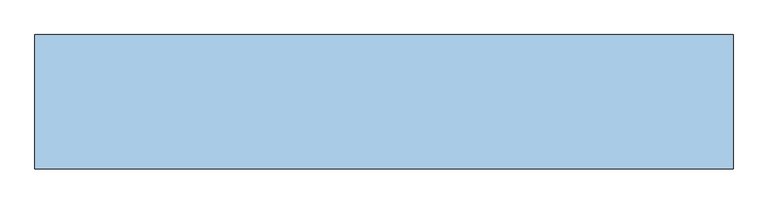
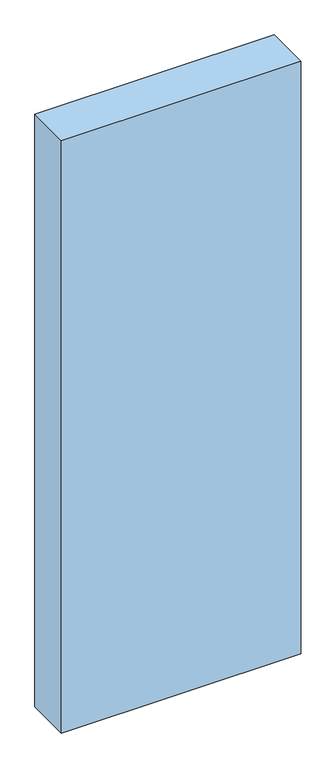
"""IFC4 building model written with IfcOpenShell, lengths in millimetres: window geometry, Dr_Проем-Четверти_об модель : ОК."""

from ifc_helpers import new_model, si_unit, origin, origin_with_axes, place, context, project, spatial, polyline, outline, extrude, source, transform, mapped, element, save


def window_82ae1421(model_context):
    return source(origin(), model_context, "Body", "SweptSolid", [
        extrude(outline(polyline([(655.0, 100.0), (655.0, -100.0), (-385.0, -100.0), (-385.0, 100.0), (655.0, 100.0)])), origin_with_axes(), (0.0, 0.0, 1.0), 2720.0),
    ])


if __name__ == "__main__":
    model = new_model("IFC4")
    model_context = context("Model", 3, world=origin())
    ifc_project = project(units=[si_unit("LENGTHUNIT", "METRE", prefix="MILLI")], contexts=[model_context])
    site = spatial("IfcSite", under=ifc_project)
    building = spatial("IfcBuilding", under=site)
    placement = place(None, origin())
    window_shape = window_82ae1421(model_context)
    element("IfcWindow", 1, ObjectType="Dr_Проем-Четверти_об модель : ОК", at=placement, inside=building, context=model_context, shape_type="MappedRepresentation", body=[
        mapped(window_shape, transform((0.0, 0.0, 0.0), x_axis=(1.0, 0.0, 0.0), y_axis=(0.0, 1.0, 0.0), z_axis=(0.0, 0.0, 1.0))),
    ])
    save(model, "model.ifc")
